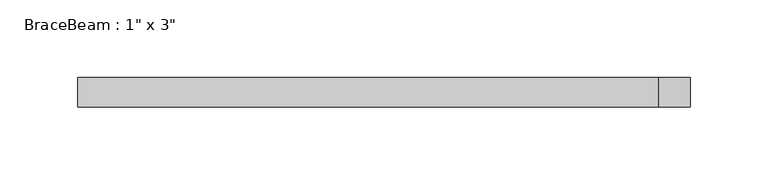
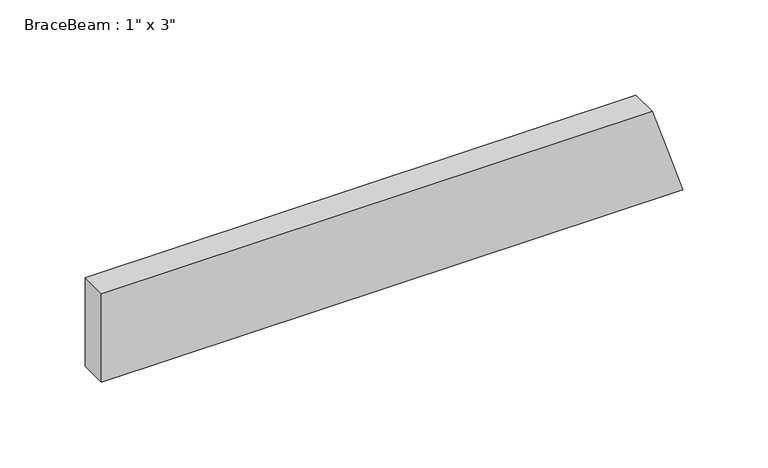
"""IFC4 building model written with IfcOpenShell, lengths in millimetres: beam geometry."""

import ifcopenshell
import ifcopenshell.guid

model = None  # the IFC model being written
_history = None  # IfcOwnerHistory: only IFC2X3 demands one
_inside = {}  # id of a spatial element -> (the spatial element, [elements in it])
_under = {}  # id of a project, library or spatial element -> (it, [spatial elements below it])
_declared = {}  # id of a project -> (the project, [libraries it declares])
_typed = {}  # id of a type object -> (the type object, [elements of that type])
_made_of = {}  # id of a material, layer set ... -> (it, [elements and type objects made of it])


def new_model(schema):
    """Start an empty IFC model of exactly this schema.

    Asked for "IFC4X3", IfcOpenShell would pick the latest addendum, in which some entities
    have other attributes; the version numbers below select the first issue.
    IFC2X3 requires an IfcOwnerHistory on every rooted entity: one is made here for all.
    """
    global model, _history
    if schema == "IFC4X3":
        model = ifcopenshell.file(schema_version=(4, 3, 0, 0))
    else:
        model = ifcopenshell.file(schema=schema)
    _inside.clear()
    _under.clear()
    _declared.clear()
    _typed.clear()
    _made_of.clear()
    _history = None
    if model.schema == "IFC2X3":
        org = make("IfcOrganization", Name="unknown")
        user = make(
            "IfcPersonAndOrganization",
            ThePerson=make("IfcPerson", FamilyName="unknown"),
            TheOrganization=org,
        )
        app = make(
            "IfcApplication",
            ApplicationDeveloper=org,
            Version="unknown",
            ApplicationFullName="unknown",
            ApplicationIdentifier="unknown",
        )
        _history = make(
            "IfcOwnerHistory",
            OwningUser=user,
            OwningApplication=app,
            ChangeAction="ADDED",
            CreationDate=0,
        )
    return model


def make(cls, **values):
    """One entity of the class cls with the attributes given. An attribute that is None is left unset."""
    return model.create_entity(
        cls, **{name: value for name, value in values.items() if value is not None}
    )


def rooted(cls, **values):
    """An entity with a GlobalId (a new one), such as an element, a storey or a relation."""
    return make(cls, GlobalId=ifcopenshell.guid.new(), OwnerHistory=_history, **values)


def si_unit(unit_type, name, prefix=None):
    """IfcSIUnit, for example si_unit("LENGTHUNIT", "METRE", prefix="MILLI")."""
    return make("IfcSIUnit", UnitType=unit_type, Prefix=prefix, Name=name)


def assignment(units):
    """IfcUnitAssignment: the units of a project."""
    return None if units is None else make("IfcUnitAssignment", Units=units)


def point(xyz):
    """IfcCartesianPoint."""
    return None if xyz is None else make("IfcCartesianPoint", Coordinates=xyz)


def direction(xyz):
    """IfcDirection."""
    return None if xyz is None else make("IfcDirection", DirectionRatios=xyz)


def frame(location, z_axis=None, x_axis=None):
    """IfcAxis2Placement3D, a coordinate frame: its origin and axes. An axis left out is left unset."""
    return make(
        "IfcAxis2Placement3D",
        Location=point(location),
        Axis=direction(z_axis),
        RefDirection=direction(x_axis),
    )


def origin():
    """The frame at (0, 0, 0) with its axes left unset."""
    return frame((0.0, 0.0, 0.0))


def place(relative_to, where):
    """IfcLocalPlacement: puts the frame where relative to a parent placement (None: the world)."""
    return make(
        "IfcLocalPlacement", PlacementRelTo=relative_to, RelativePlacement=where
    )


def context(
    kind, dimensions, precision=None, world=None, true_north=None, identifier=None
):
    """IfcGeometricRepresentationContext, for example the 3D "Model" context."""
    return make(
        "IfcGeometricRepresentationContext",
        ContextIdentifier=identifier,
        ContextType=kind,
        CoordinateSpaceDimension=dimensions,
        Precision=precision,
        WorldCoordinateSystem=world,
        TrueNorth=true_north,
    )


def project(units=None, contexts=None):
    """IfcProject with its units and contexts."""
    return rooted(
        "IfcProject",
        Name="project",
        RepresentationContexts=contexts,
        UnitsInContext=assignment(units),
    )


def spatial(cls, under=None, at=None, **own):
    """A site, building, storey or space (cls), placed at a placement, below another one or the project."""
    s = rooted(cls, ObjectPlacement=at, **own)
    if under is not None:
        _under.setdefault(under.id(), (under, []))[1].append(s)
    return s


def faces_of(points, faces, orient=None, outer=None):
    """IfcFace entities. A face is a list of loops; a loop is a list of indices into points, from 0.

    orient and outer hold one flag for each loop. By default every Orientation is true, the
    first loop of a face is its IfcFaceOuterBound and the others are IfcFaceBound.
    """
    made = []
    for i, loops in enumerate(faces):
        bounds = []
        for j, loop in enumerate(loops):
            is_outer = j == 0 if outer is None else outer[i][j]
            bounds.append(
                make(
                    "IfcFaceOuterBound" if is_outer else "IfcFaceBound",
                    Bound=make("IfcPolyLoop", Polygon=[points[k] for k in loop]),
                    Orientation=True if orient is None else orient[i][j],
                )
            )
        made.append(make("IfcFace", Bounds=bounds))
    return made


def faceted_brep(points, faces, orient=None, outer=None, voids=None):
    """IfcFacetedBrep: a solid bounded by flat faces; with voids (closed shells), ...WithVoids."""
    shared = [point(p) for p in points]
    hull = make("IfcClosedShell", CfsFaces=faces_of(shared, faces, orient, outer))
    if voids is None:
        return make("IfcFacetedBrep", Outer=hull)
    return make(
        "IfcFacetedBrepWithVoids",
        Outer=hull,
        Voids=[
            make(cls, CfsFaces=faces_of(shared, fs, o, b)) for cls, fs, o, b in voids
        ],
    )


def shape(context_of_items, identifier, shape_type, items):
    """IfcShapeRepresentation: the items that make up one representation, for example the "Body"."""
    return make(
        "IfcShapeRepresentation",
        ContextOfItems=context_of_items,
        RepresentationIdentifier=identifier,
        RepresentationType=shape_type,
        Items=items,
    )


def source(mapping_origin, context_of_items, identifier, shape_type, items):
    """IfcRepresentationMap: a shape defined once, which mapped items show again and again."""
    return make(
        "IfcRepresentationMap",
        MappingOrigin=mapping_origin,
        MappedRepresentation=shape(context_of_items, identifier, shape_type, items),
    )


def transform(
    local_origin,
    x_axis=None,
    y_axis=None,
    z_axis=None,
    scale=None,
    scale2=None,
    scale3=None,
    uniform=True,
):
    """IfcCartesianTransformationOperator3D, or its non-uniform kind. x_axis, y_axis, z_axis: its Axis1, 2, 3."""
    if uniform:
        return make(
            "IfcCartesianTransformationOperator3D",
            Axis1=direction(x_axis),
            Axis2=direction(y_axis),
            LocalOrigin=point(local_origin),
            Scale=scale,
            Axis3=direction(z_axis),
        )
    return make(
        "IfcCartesianTransformationOperator3DnonUniform",
        Axis1=direction(x_axis),
        Axis2=direction(y_axis),
        LocalOrigin=point(local_origin),
        Scale=scale,
        Axis3=direction(z_axis),
        Scale2=scale2,
        Scale3=scale3,
    )


def mapped(mapping_source, mapping_target):
    """IfcMappedItem: shows the shape of a source again, moved by a transform."""
    return make(
        "IfcMappedItem", MappingSource=mapping_source, MappingTarget=mapping_target
    )


def made_of(thing, what):
    """Note that an element or type object is made of a material, layer set ...; save() writes the relation."""
    if what is not None:
        _made_of.setdefault(what.id(), (what, []))[1].append(thing)
    return thing


def element(
    cls,
    number,
    at=None,
    inside=None,
    cuts=None,
    type_object=None,
    material=None,
    context=None,
    identifier="Body",
    shape_type=None,
    held_by="IfcProductDefinitionShape",
    body=None,
    shapes=None,
    **own,
):
    """One element of the class cls, such as IfcWall. Its Tag is "e" and its number.

    at: its placement. inside: the storey or other place that contains it. cuts: it is an
    opening in that element (IfcRelVoidsElement). A single representation is given by context,
    identifier, shape_type and body (its items); several are given by shapes. held_by: the class
    of the entity that holds the representations. save() writes the other relations.
    """
    e = rooted(cls, Tag="e%d" % number, ObjectPlacement=at, **own)
    if body is not None:
        shapes = [shape(context, identifier, shape_type, body)]
    if shapes is not None:
        e.Representation = make(held_by, Representations=shapes)
    if inside is not None:
        _inside.setdefault(inside.id(), (inside, []))[1].append(e)
    if cuts is not None:
        rooted(
            "IfcRelVoidsElement", RelatingBuildingElement=cuts, RelatedOpeningElement=e
        )
    if type_object is not None:
        _typed.setdefault(type_object.id(), (type_object, []))[1].append(e)
    return made_of(e, material)


def aggregate(whole, parts):
    """IfcRelAggregates: a whole, such as a stair, and the parts it consists of."""
    return rooted("IfcRelAggregates", RelatingObject=whole, RelatedObjects=parts)


def save(model, path):
    """Write the relations noted so far, then the file.

    IfcRelAggregates (storeys below a building ...), IfcRelContainedInSpatialStructure (elements
    in a storey), IfcRelDefinesByType, IfcRelAssociatesMaterial and IfcRelDeclares: one each for
    every whole, place, type object, material and project.
    """
    for whole, parts in _under.values():
        aggregate(whole, parts)
    for where, things in _inside.values():
        rooted(
            "IfcRelContainedInSpatialStructure",
            RelatedElements=things,
            RelatingStructure=where,
        )
    for kind, things in _typed.values():
        rooted("IfcRelDefinesByType", RelatedObjects=things, RelatingType=kind)
    for what, things in _made_of.values():
        rooted("IfcRelAssociatesMaterial", RelatedObjects=things, RelatingMaterial=what)
    for by, libraries in _declared.values():
        rooted("IfcRelDeclares", RelatingContext=by, RelatedDefinitions=libraries)
    model.write(path)


def beam_1b2abc71(model_context):
    return source(origin(), model_context, "Body", "Brep", [
        faceted_brep([(-192.6045024, -9.525, -31.75), (-192.6045024, 9.525, -31.75), (201.3189798, 9.525, -31.75), (201.3189798, -9.525, -31.75), (-192.6045024, 9.525, 31.75), (180.5932854, 9.525, 31.75), (190.9561326, 9.525, 0.0), (-192.6045024, -9.525, 31.75), (180.5932854, -9.525, 31.75), (190.9561326, -9.525, 0.0)], [[[0, 1, 2, 3]], [[1, 4, 5, 6, 2]], [[4, 7, 8, 5]], [[7, 0, 3, 9, 8]], [[7, 4, 1, 0]], [[5, 8, 9, 3, 2, 6]]]),
    ])


if __name__ == "__main__":
    model = new_model("IFC4")
    model_context = context("Model", 3, world=origin())
    ifc_project = project(units=[si_unit("LENGTHUNIT", "METRE", prefix="MILLI")], contexts=[model_context])
    site = spatial("IfcSite", under=ifc_project)
    building = spatial("IfcBuilding", under=site)
    placement = place(None, origin())
    beam_shape = beam_1b2abc71(model_context)
    element("IfcBeam", 1, ObjectType="BraceBeam : 1\" x 3\"", at=placement, inside=building, context=model_context, shape_type="MappedRepresentation", body=[
        mapped(beam_shape, transform((0.0, 0.0, 0.0), x_axis=(1.0, 0.0, 0.0), y_axis=(0.0, 1.0, 0.0), z_axis=(0.0, 0.0, 1.0))),
    ])
    save(model, "model.ifc")
